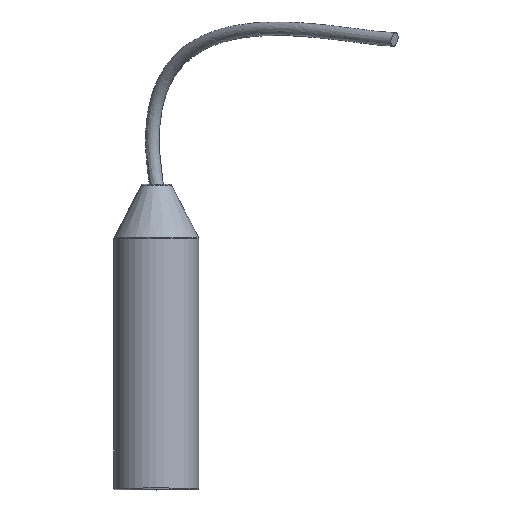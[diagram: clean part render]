
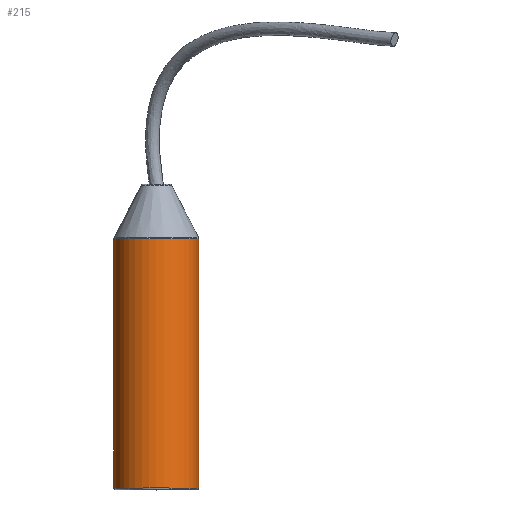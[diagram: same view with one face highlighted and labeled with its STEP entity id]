
A CAD part, top view. The second image highlights one B-rep face of the part: STEP entity #215.
In plain terms, the highlighted cylindrical face has radius 22.875 mm (diameter 45.75 mm), a full revolution.
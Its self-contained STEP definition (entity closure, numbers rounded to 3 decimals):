
#18=CYLINDRICAL_SURFACE('',#258,22.875);
#23=LINE('',#556,#27);
#27=VECTOR('',#317,22.875);
#41=FACE_OUTER_BOUND('',#54,.T.);
#54=EDGE_LOOP('',(#168,#169,#170,#171,#172,#173,#174,#175));
#70=CIRCLE('',#255,22.875);
#71=CIRCLE('',#256,22.875);
#72=CIRCLE('',#257,22.875);
#73=CIRCLE('',#259,22.875);
#74=CIRCLE('',#260,22.875);
#75=CIRCLE('',#261,22.875);
#97=VERTEX_POINT('',#547);
#98=VERTEX_POINT('',#549);
#99=VERTEX_POINT('',#551);
#100=VERTEX_POINT('',#555);
#101=VERTEX_POINT('',#557);
#102=VERTEX_POINT('',#559);
#124=EDGE_CURVE('',#97,#98,#70,.T.);
#125=EDGE_CURVE('',#98,#99,#71,.T.);
#126=EDGE_CURVE('',#99,#97,#72,.T.);
#127=EDGE_CURVE('',#98,#100,#23,.T.);
#128=EDGE_CURVE('',#101,#100,#73,.T.);
#129=EDGE_CURVE('',#102,#101,#74,.T.);
#130=EDGE_CURVE('',#100,#102,#75,.T.);
#168=ORIENTED_EDGE('',*,*,#126,.F.);
#169=ORIENTED_EDGE('',*,*,#125,.F.);
#170=ORIENTED_EDGE('',*,*,#127,.T.);
#171=ORIENTED_EDGE('',*,*,#128,.F.);
#172=ORIENTED_EDGE('',*,*,#129,.F.);
#173=ORIENTED_EDGE('',*,*,#130,.F.);
#174=ORIENTED_EDGE('',*,*,#127,.F.);
#175=ORIENTED_EDGE('',*,*,#124,.F.);
#215=ADVANCED_FACE('',(#41),#18,.T.);
#255=AXIS2_PLACEMENT_3D('',#550,#309,#310);
#256=AXIS2_PLACEMENT_3D('',#552,#311,#312);
#257=AXIS2_PLACEMENT_3D('',#553,#313,#314);
#258=AXIS2_PLACEMENT_3D('',#554,#315,#316);
#259=AXIS2_PLACEMENT_3D('',#558,#318,#319);
#260=AXIS2_PLACEMENT_3D('',#560,#320,#321);
#261=AXIS2_PLACEMENT_3D('',#561,#322,#323);
#309=DIRECTION('center_axis',(0.,-1.,0.));
#310=DIRECTION('ref_axis',(-1.,0.,0.));
#311=DIRECTION('center_axis',(0.,-1.,0.));
#312=DIRECTION('ref_axis',(-1.,0.,0.));
#313=DIRECTION('center_axis',(0.,-1.,0.));
#314=DIRECTION('ref_axis',(-1.,0.,0.));
#315=DIRECTION('center_axis',(0.,-1.,0.));
#316=DIRECTION('ref_axis',(1.,0.,0.));
#317=DIRECTION('',(0.,1.,0.));
#318=DIRECTION('center_axis',(0.,1.,0.));
#319=DIRECTION('ref_axis',(-1.,0.,0.));
#320=DIRECTION('center_axis',(0.,1.,0.));
#321=DIRECTION('ref_axis',(-1.,0.,0.));
#322=DIRECTION('center_axis',(0.,1.,0.));
#323=DIRECTION('ref_axis',(-1.,0.,0.));
#547=CARTESIAN_POINT('',(0.,1.,22.875));
#549=CARTESIAN_POINT('',(-22.875,1.,0.));
#550=CARTESIAN_POINT('Origin',(0.,1.,0.));
#551=CARTESIAN_POINT('',(22.875,1.,0.));
#552=CARTESIAN_POINT('Origin',(0.,1.,0.));
#553=CARTESIAN_POINT('Origin',(0.,1.,0.));
#554=CARTESIAN_POINT('Origin',(0.,67.725,0.));
#555=CARTESIAN_POINT('',(-22.875,135.206,0.));
#556=CARTESIAN_POINT('',(-22.875,67.725,0.));
#557=CARTESIAN_POINT('',(22.875,135.206,0.));
#558=CARTESIAN_POINT('Origin',(0.,135.206,0.));
#559=CARTESIAN_POINT('',(0.,135.206,22.875));
#560=CARTESIAN_POINT('Origin',(0.,135.206,0.));
#561=CARTESIAN_POINT('Origin',(0.,135.206,0.));
